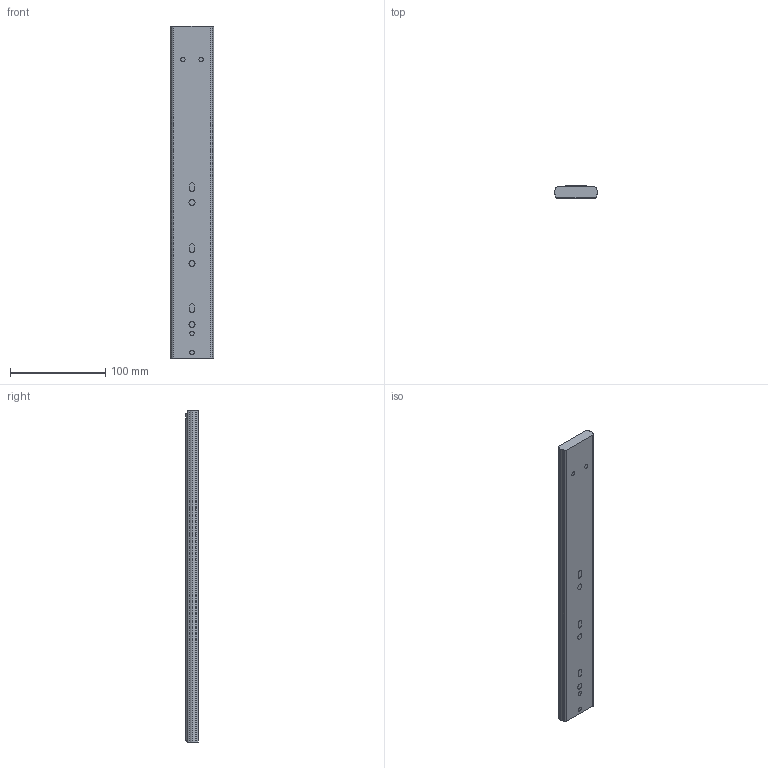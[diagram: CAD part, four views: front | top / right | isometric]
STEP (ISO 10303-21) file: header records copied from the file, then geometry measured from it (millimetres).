
FILE_DESCRIPTION (( 'STEP AP203' ), '1' );
FILE_NAME ('4587114H(¹Ø).STEP', '2020-02-13T09:01:39', ( 'ZZG' ), ( 'Microsoft' ), 'SwSTEP 2.0', 'SolidWorks 2012', '' );
FILE_SCHEMA (( 'CONFIG_CONTROL_DESIGN' ));
Length unit declared in the file: millimetre
Products named in the file (1): 4587114H(壽)
Bounding box: 45.57 x 12.7 x 348 mm (x, y, z)
Volume: 182259.5 mm3; surface area: 38656.4 mm2
Topology: 1 solids, 1 shells, 181 faces, 477 edges, 316 vertices
Faces by surface type: cylinder 94, plane 77, cone 6, bspline 4
Entity records: 5882 total; most frequent: CARTESIAN_POINT 1219, DIRECTION 981, ORIENTED_EDGE 954, EDGE_CURVE 477, AXIS2_PLACEMENT_3D 360, VERTEX_POINT 316, LINE 261, VECTOR 261
